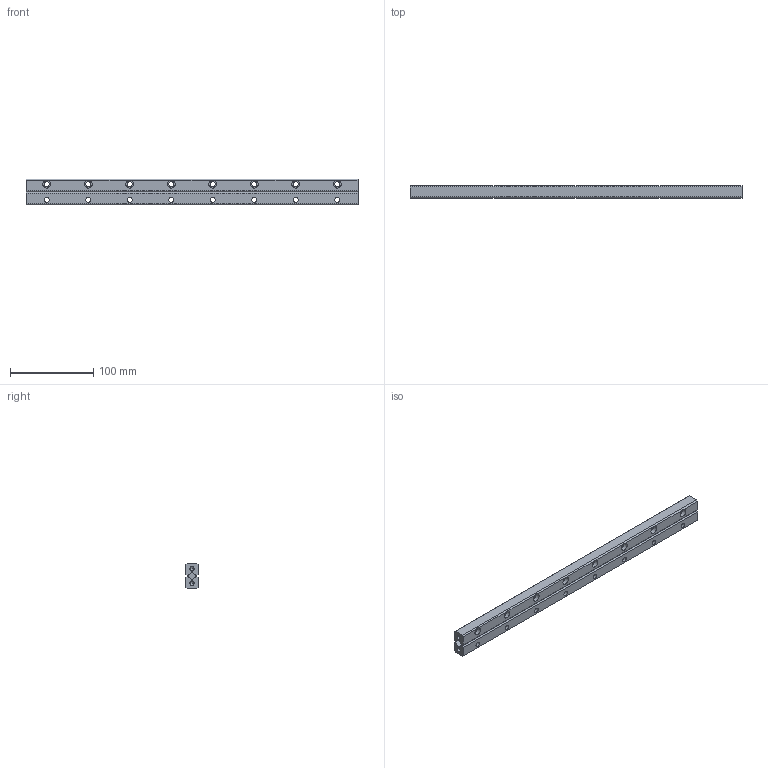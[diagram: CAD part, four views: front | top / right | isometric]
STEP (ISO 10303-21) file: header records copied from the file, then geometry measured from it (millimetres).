
FILE_DESCRIPTION((''),'2;1');
FILE_NAME('D:\製品 (図面)\カタログ用3D\リニアガイド関連\STEP形式\ACS6\ACS6400.stp','2010-07-29T15:44:50',('Tsuchiya'),(''),'Autodesk Inventor 10','Autodesk Inventor 10','');
FILE_SCHEMA(('AUTOMOTIVE_DESIGN { 1 0 10303 214 1 1 1 1 }'));
Length unit declared in the file: millimetre
Products named in the file (4): ACS6400; ACS64001; ACS64002; ACS64003
Assembly tree (3 placements, depth 2):
  ACS6400
    ACS64001
    ACS64002
    ACS64003
Bounding box: 400 x 15 x 31 mm (x, y, z)
Volume: 161914.8 mm3; surface area: 65098.8 mm2
Topology: 3 solids, 3 shells, 110 faces, 298 edges, 198 vertices
Faces by surface type: bspline 52, plane 52, cylinder 4, cone 2
Full cylindrical faces by diameter (mm): 5 x2
Entity records: 3715 total; most frequent: CARTESIAN_POINT 1189, ORIENTED_EDGE 472, DIRECTION 458, EDGE_CURVE 236, EDGE_LOOP 186, VERTEX_POINT 176, AXIS2_PLACEMENT_3D 157, VECTOR 144
